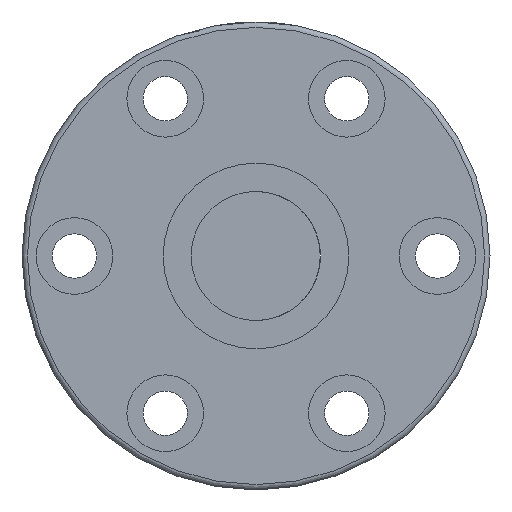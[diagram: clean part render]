
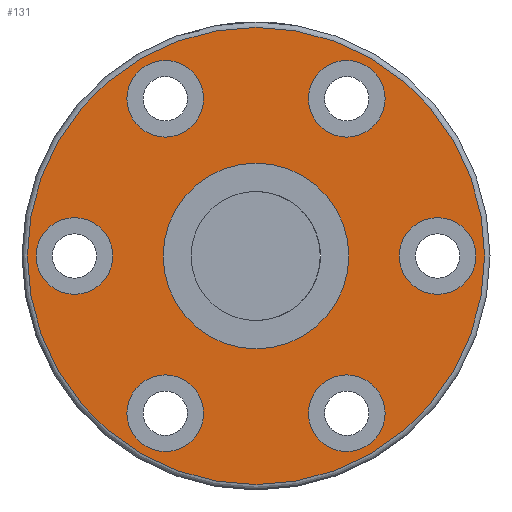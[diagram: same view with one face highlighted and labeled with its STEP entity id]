
A CAD part, front view. The second image highlights one B-rep face of the part: STEP entity #131.
In plain terms, the highlighted planar face has unit normal (0, -1, 0).
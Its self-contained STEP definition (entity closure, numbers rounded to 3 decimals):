
#109=PLANE('',#646);
#131=ADVANCED_FACE('',(#197,#198,#199,#200,#201,#202,#203,#204),#109,.F.);
#197=FACE_BOUND('',#294,.T.);
#198=FACE_BOUND('',#295,.T.);
#199=FACE_BOUND('',#296,.T.);
#200=FACE_BOUND('',#297,.T.);
#201=FACE_BOUND('',#298,.T.);
#202=FACE_BOUND('',#299,.T.);
#203=FACE_BOUND('',#300,.T.);
#204=FACE_BOUND('',#301,.T.);
#294=EDGE_LOOP('',(#392));
#295=EDGE_LOOP('',(#393));
#296=EDGE_LOOP('',(#394));
#297=EDGE_LOOP('',(#395));
#298=EDGE_LOOP('',(#396));
#299=EDGE_LOOP('',(#397));
#300=EDGE_LOOP('',(#398));
#301=EDGE_LOOP('',(#399));
#392=ORIENTED_EDGE('',*,*,#537,.T.);
#393=ORIENTED_EDGE('',*,*,#538,.T.);
#394=ORIENTED_EDGE('',*,*,#539,.T.);
#395=ORIENTED_EDGE('',*,*,#540,.T.);
#396=ORIENTED_EDGE('',*,*,#541,.T.);
#397=ORIENTED_EDGE('',*,*,#542,.T.);
#398=ORIENTED_EDGE('',*,*,#543,.T.);
#399=ORIENTED_EDGE('',*,*,#544,.F.);
#488=VERTEX_POINT('',#920);
#489=VERTEX_POINT('',#922);
#490=VERTEX_POINT('',#924);
#491=VERTEX_POINT('',#926);
#492=VERTEX_POINT('',#928);
#493=VERTEX_POINT('',#930);
#494=VERTEX_POINT('',#932);
#495=VERTEX_POINT('',#934);
#537=EDGE_CURVE('',#488,#488,#586,.T.);
#538=EDGE_CURVE('',#489,#489,#587,.T.);
#539=EDGE_CURVE('',#490,#490,#588,.T.);
#540=EDGE_CURVE('',#491,#491,#589,.T.);
#541=EDGE_CURVE('',#492,#492,#590,.T.);
#542=EDGE_CURVE('',#493,#493,#591,.T.);
#543=EDGE_CURVE('',#494,#494,#592,.T.);
#544=EDGE_CURVE('',#495,#495,#593,.T.);
#586=CIRCLE('',#638,4.75);
#587=CIRCLE('',#639,4.75);
#588=CIRCLE('',#640,4.75);
#589=CIRCLE('',#641,4.75);
#590=CIRCLE('',#642,4.75);
#591=CIRCLE('',#643,4.75);
#592=CIRCLE('',#644,28.333);
#593=CIRCLE('',#645,11.5);
#638=AXIS2_PLACEMENT_3D('',#919,#737,#738);
#639=AXIS2_PLACEMENT_3D('',#921,#739,#740);
#640=AXIS2_PLACEMENT_3D('',#923,#741,#742);
#641=AXIS2_PLACEMENT_3D('',#925,#743,#744);
#642=AXIS2_PLACEMENT_3D('',#927,#745,#746);
#643=AXIS2_PLACEMENT_3D('',#929,#747,#748);
#644=AXIS2_PLACEMENT_3D('',#931,#749,#750);
#645=AXIS2_PLACEMENT_3D('',#933,#751,#752);
#646=AXIS2_PLACEMENT_3D('',#935,#753,#754);
#737=DIRECTION('',(0.,1.,0.));
#738=DIRECTION('',(0.,0.,1.));
#739=DIRECTION('',(0.,1.,0.));
#740=DIRECTION('',(0.,0.,1.));
#741=DIRECTION('',(0.,1.,0.));
#742=DIRECTION('',(0.,0.,1.));
#743=DIRECTION('',(0.,1.,0.));
#744=DIRECTION('',(0.,0.,1.));
#745=DIRECTION('',(0.,1.,0.));
#746=DIRECTION('',(0.,0.,1.));
#747=DIRECTION('',(0.,1.,0.));
#748=DIRECTION('',(0.,0.,1.));
#749=DIRECTION('',(0.,-1.,0.));
#750=DIRECTION('',(0.,0.,1.));
#751=DIRECTION('',(0.,-1.,0.));
#752=DIRECTION('',(1.,0.,0.));
#753=DIRECTION('',(0.,1.,0.));
#754=DIRECTION('',(0.,0.,1.));
#919=CARTESIAN_POINT('',(22.539,-28.461,0.));
#920=CARTESIAN_POINT('',(22.539,-28.461,4.75));
#921=CARTESIAN_POINT('',(-22.461,-28.461,0.));
#922=CARTESIAN_POINT('',(-22.461,-28.461,4.75));
#923=CARTESIAN_POINT('',(11.289,-28.461,-19.486));
#924=CARTESIAN_POINT('',(11.289,-28.461,-14.736));
#925=CARTESIAN_POINT('',(-11.211,-28.461,-19.486));
#926=CARTESIAN_POINT('',(-11.211,-28.461,-14.736));
#927=CARTESIAN_POINT('',(11.289,-28.461,19.486));
#928=CARTESIAN_POINT('',(11.289,-28.461,24.236));
#929=CARTESIAN_POINT('',(-11.211,-28.461,19.486));
#930=CARTESIAN_POINT('',(-11.211,-28.461,24.236));
#931=CARTESIAN_POINT('',(0.039,-28.461,0.));
#932=CARTESIAN_POINT('',(0.039,-28.461,28.333));
#933=CARTESIAN_POINT('',(0.039,-28.461,0.));
#934=CARTESIAN_POINT('',(11.539,-28.461,0.));
#935=CARTESIAN_POINT('',(0.039,-28.461,0.));
